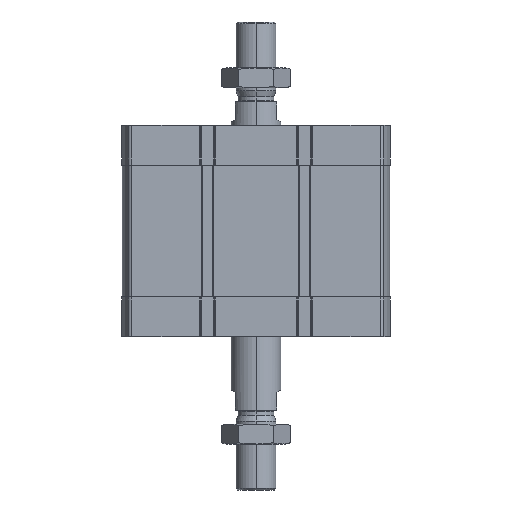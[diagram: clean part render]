
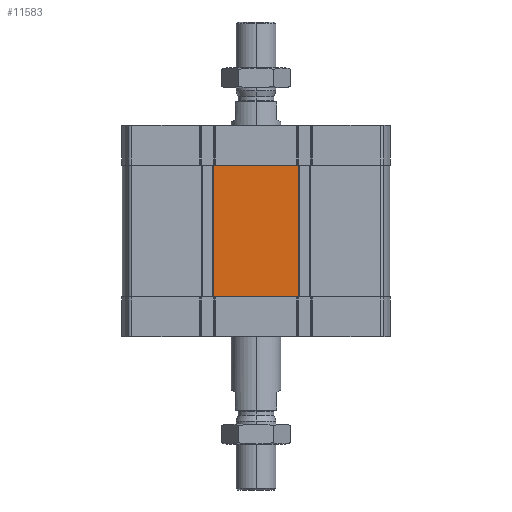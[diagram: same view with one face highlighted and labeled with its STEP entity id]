
A CAD part, left-side view. The second image highlights one B-rep face of the part: STEP entity #11583.
In plain terms, the highlighted planar face has unit normal (-1, 0, 0).
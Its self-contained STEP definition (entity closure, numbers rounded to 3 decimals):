
#74 = VERTEX_POINT ( 'NONE', #14312 ) ;
#79 = VECTOR ( 'NONE', #15286, 1000. ) ;
#160 = VERTEX_POINT ( 'NONE', #14967 ) ;
#488 = LINE ( 'NONE', #2268, #835 ) ;
#612 = EDGE_CURVE ( 'NONE', #12553, #6517, #18223, .T. ) ;
#835 = VECTOR ( 'NONE', #6543, 1000. ) ;
#1553 = PLANE ( 'NONE',  #14072 ) ;
#1584 = DIRECTION ( 'NONE',  ( 0., -1., 0. ) ) ;
#1825 = CARTESIAN_POINT ( 'NONE',  ( -67., 67., -86. ) ) ;
#1922 = LINE ( 'NONE', #1825, #79 ) ;
#2001 = CARTESIAN_POINT ( 'NONE',  ( -67., -20.687, -20. ) ) ;
#2268 = CARTESIAN_POINT ( 'NONE',  ( -67., 21.3, -86. ) ) ;
#2531 = ORIENTED_EDGE ( 'NONE', *, *, #12040, .T. ) ;
#2900 = ORIENTED_EDGE ( 'NONE', *, *, #612, .T. ) ;
#3052 = ORIENTED_EDGE ( 'NONE', *, *, #9077, .F. ) ;
#3170 = CARTESIAN_POINT ( 'NONE',  ( -67., 67., -86. ) ) ;
#4365 = ORIENTED_EDGE ( 'NONE', *, *, #5975, .T. ) ;
#4375 = CARTESIAN_POINT ( 'NONE',  ( -67., 21.3, -86. ) ) ;
#4642 = ORIENTED_EDGE ( 'NONE', *, *, #10189, .F. ) ;
#4744 = CARTESIAN_POINT ( 'NONE',  ( -67., 67., -20. ) ) ;
#5532 = CARTESIAN_POINT ( 'NONE',  ( -67., 20.687, -86. ) ) ;
#5975 = EDGE_CURVE ( 'NONE', #6517, #74, #9124, .T. ) ;
#6100 = CARTESIAN_POINT ( 'NONE',  ( -67., 67., -86. ) ) ;
#6395 = VERTEX_POINT ( 'NONE', #17115 ) ;
#6517 = VERTEX_POINT ( 'NONE', #5532 ) ;
#6543 = DIRECTION ( 'NONE',  ( 0., 0., 1. ) ) ;
#8782 = VERTEX_POINT ( 'NONE', #2001 ) ;
#8968 = DIRECTION ( 'NONE',  ( 0., 0., 1. ) ) ;
#9077 = EDGE_CURVE ( 'NONE', #12215, #6395, #19501, .T. ) ;
#9124 = LINE ( 'NONE', #4375, #17851 ) ;
#9303 = CARTESIAN_POINT ( 'NONE',  ( -67., 21.3, -20. ) ) ;
#9434 = CARTESIAN_POINT ( 'NONE',  ( -67., -21.3, -86. ) ) ;
#9495 = VECTOR ( 'NONE', #13462, 1000. ) ;
#10100 = DIRECTION ( 'NONE',  ( 0., 0., 1. ) ) ;
#10173 = DIRECTION ( 'NONE',  ( -1., 0., 0. ) ) ;
#10189 = EDGE_CURVE ( 'NONE', #12553, #12215, #488, .T. ) ;
#10789 = LINE ( 'NONE', #9303, #17224 ) ;
#11583 = ADVANCED_FACE ( 'NONE', ( #12141 ), #1553, .T. ) ;
#11660 = EDGE_CURVE ( 'NONE', #8782, #160, #18584, .T. ) ;
#12040 = EDGE_CURVE ( 'NONE', #74, #13497, #1922, .T. ) ;
#12141 = FACE_OUTER_BOUND ( 'NONE', #18759, .T. ) ;
#12215 = VERTEX_POINT ( 'NONE', #15968 ) ;
#12553 = VERTEX_POINT ( 'NONE', #17141 ) ;
#13462 = DIRECTION ( 'NONE',  ( 0., -1., 0. ) ) ;
#13497 = VERTEX_POINT ( 'NONE', #9434 ) ;
#13554 = ORIENTED_EDGE ( 'NONE', *, *, #18344, .T. ) ;
#13974 = EDGE_CURVE ( 'NONE', #6395, #8782, #10789, .T. ) ;
#14072 = AXIS2_PLACEMENT_3D ( 'NONE', #6100, #10173, #8968 ) ;
#14239 = DIRECTION ( 'NONE',  ( 0., -1., 0. ) ) ;
#14312 = CARTESIAN_POINT ( 'NONE',  ( -67., -20.687, -86. ) ) ;
#14355 = LINE ( 'NONE', #14642, #16513 ) ;
#14434 = VECTOR ( 'NONE', #14239, 1000. ) ;
#14490 = ORIENTED_EDGE ( 'NONE', *, *, #11660, .F. ) ;
#14642 = CARTESIAN_POINT ( 'NONE',  ( -67., -21.3, -86. ) ) ;
#14967 = CARTESIAN_POINT ( 'NONE',  ( -67., -21.3, -20. ) ) ;
#15166 = DIRECTION ( 'NONE',  ( 0., -1., 0. ) ) ;
#15286 = DIRECTION ( 'NONE',  ( 0., -1., 0. ) ) ;
#15550 = ORIENTED_EDGE ( 'NONE', *, *, #13974, .F. ) ;
#15968 = CARTESIAN_POINT ( 'NONE',  ( -67., 21.3, -20. ) ) ;
#16513 = VECTOR ( 'NONE', #10100, 1000. ) ;
#16782 = DIRECTION ( 'NONE',  ( 0., -1., 0. ) ) ;
#17090 = CARTESIAN_POINT ( 'NONE',  ( -67., 67., -20. ) ) ;
#17115 = CARTESIAN_POINT ( 'NONE',  ( -67., 20.687, -20. ) ) ;
#17141 = CARTESIAN_POINT ( 'NONE',  ( -67., 21.3, -86. ) ) ;
#17224 = VECTOR ( 'NONE', #1584, 1000. ) ;
#17851 = VECTOR ( 'NONE', #15166, 1000. ) ;
#18223 = LINE ( 'NONE', #3170, #14434 ) ;
#18344 = EDGE_CURVE ( 'NONE', #13497, #160, #14355, .T. ) ;
#18584 = LINE ( 'NONE', #17090, #19122 ) ;
#18759 = EDGE_LOOP ( 'NONE', ( #4642, #2900, #4365, #2531, #13554, #14490, #15550, #3052 ) ) ;
#19122 = VECTOR ( 'NONE', #16782, 1000. ) ;
#19501 = LINE ( 'NONE', #4744, #9495 ) ;
